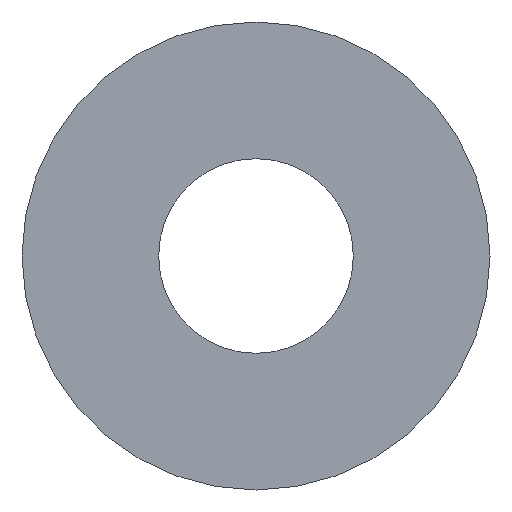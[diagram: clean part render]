
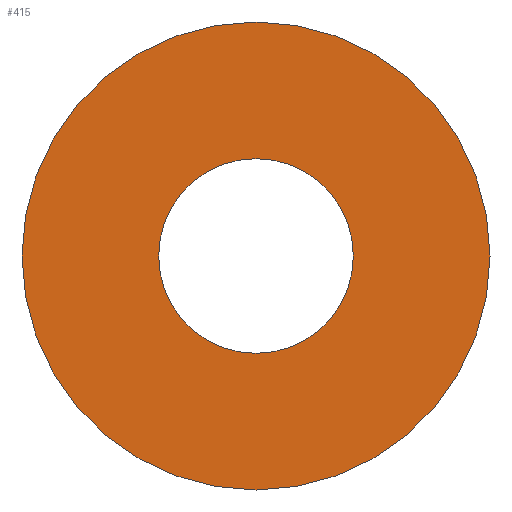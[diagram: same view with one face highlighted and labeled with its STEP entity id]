
A CAD part, front view. The second image highlights one B-rep face of the part: STEP entity #415.
In plain terms, the highlighted planar face has unit normal (0, -1, 0).
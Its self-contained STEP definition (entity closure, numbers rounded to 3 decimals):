
#326=CARTESIAN_POINT('',(0.,0.,0.));
#327=DIRECTION('',(0.,1.,0.));
#328=DIRECTION('',(1.,0.,0.));
#329=AXIS2_PLACEMENT_3D('',#326,#327,#328);
#331=CARTESIAN_POINT('',(0.,0.,0.));
#332=DIRECTION('',(0.,1.,0.));
#333=DIRECTION('',(-1.,0.,0.));
#334=AXIS2_PLACEMENT_3D('',#331,#332,#333);
#336=CARTESIAN_POINT('',(0.,0.,0.));
#337=DIRECTION('',(0.,-1.,0.));
#338=DIRECTION('',(1.,0.,0.));
#339=AXIS2_PLACEMENT_3D('',#336,#337,#338);
#341=CARTESIAN_POINT('',(0.,0.,0.));
#342=DIRECTION('',(0.,-1.,0.));
#343=DIRECTION('',(-1.,0.,0.));
#344=AXIS2_PLACEMENT_3D('',#341,#342,#343);
#382=CARTESIAN_POINT('',(6.25,0.,0.));
#383=CARTESIAN_POINT('',(-6.25,0.,0.));
#384=VERTEX_POINT('',#382);
#385=VERTEX_POINT('',#383);
#386=CARTESIAN_POINT('',(2.6,0.,0.));
#387=CARTESIAN_POINT('',(-2.6,0.,0.));
#388=VERTEX_POINT('',#386);
#389=VERTEX_POINT('',#387);
#398=CARTESIAN_POINT('',(0.,0.,0.));
#399=DIRECTION('',(0.,1.,0.));
#400=DIRECTION('',(1.,0.,0.));
#401=AXIS2_PLACEMENT_3D('',#398,#399,#400);
#402=PLANE('',#401);
#404=ORIENTED_EDGE('',*,*,#403,.T.);
#406=ORIENTED_EDGE('',*,*,#405,.T.);
#407=EDGE_LOOP('',(#404,#406));
#408=FACE_OUTER_BOUND('',#407,.F.);
#410=ORIENTED_EDGE('',*,*,#409,.T.);
#412=ORIENTED_EDGE('',*,*,#411,.T.);
#413=EDGE_LOOP('',(#410,#412));
#414=FACE_BOUND('',#413,.F.);
#330=CIRCLE('',#329,6.25);
#335=CIRCLE('',#334,6.25);
#340=CIRCLE('',#339,2.6);
#345=CIRCLE('',#344,2.6);
#403=EDGE_CURVE('',#384,#385,#330,.T.);
#405=EDGE_CURVE('',#385,#384,#335,.T.);
#409=EDGE_CURVE('',#388,#389,#340,.T.);
#411=EDGE_CURVE('',#389,#388,#345,.T.);
#415=ADVANCED_FACE('',(#408,#414),#402,.F.);
